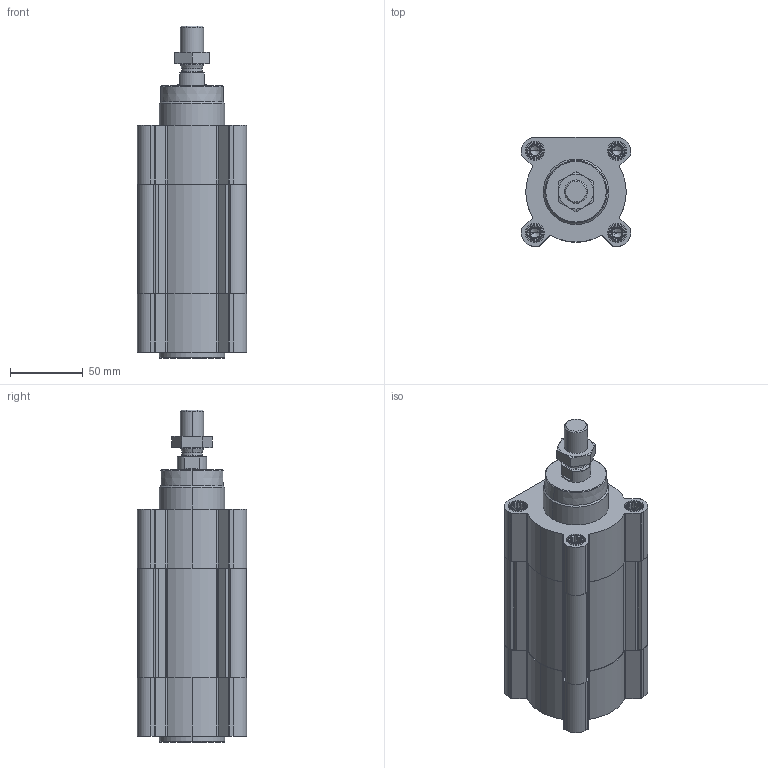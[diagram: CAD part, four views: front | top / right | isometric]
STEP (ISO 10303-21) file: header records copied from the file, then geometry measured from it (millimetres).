
FILE_DESCRIPTION (( 'STEP AP203' ), '1' );
FILE_NAME ('CPME63-35.STEP', '2023-07-11T12:25:13', ( '' ), ( '' ), 'SwSTEP 2.0', 'SolidWorks 2019', '' );
FILE_SCHEMA (( 'CONFIG_CONTROL_DESIGN' ));
Length unit declared in the file: millimetre
Products named in the file (1): CPME63-35
Bounding box: 75 x 75 x 228.1 mm (x, y, z)
Volume: 683981.8 mm3; surface area: 130447.7 mm2
Topology: 3 solids, 3 shells, 639 faces, 1655 edges, 1050 vertices
Faces by surface type: plane 325, cylinder 200, cone 106, torus 8
Entity records: 19989 total; most frequent: CARTESIAN_POINT 4403, ORIENTED_EDGE 3278, DIRECTION 3187, EDGE_CURVE 1639, AXIS2_PLACEMENT_3D 1131, VERTEX_POINT 1050, VECTOR 925, LINE 925
